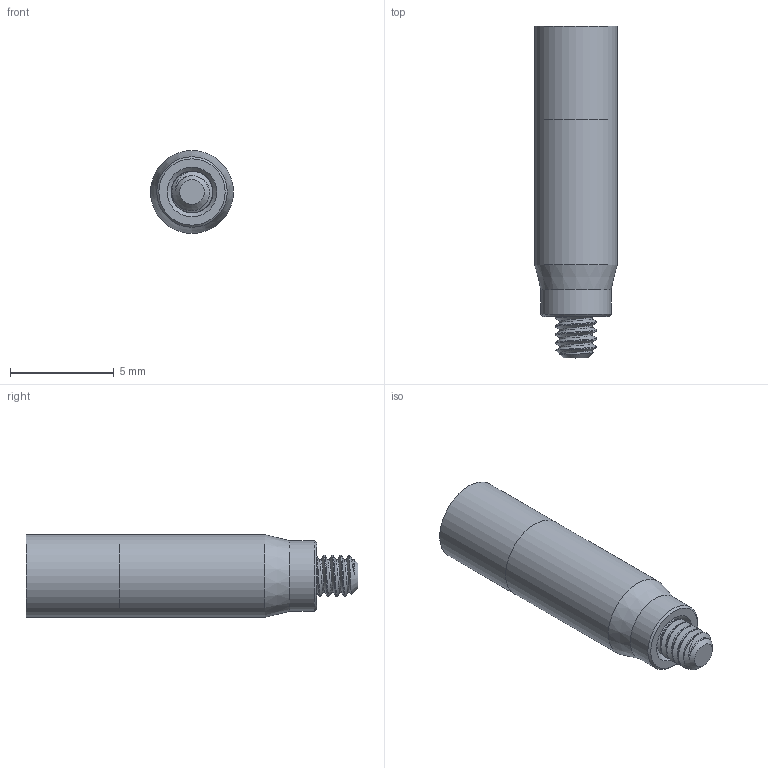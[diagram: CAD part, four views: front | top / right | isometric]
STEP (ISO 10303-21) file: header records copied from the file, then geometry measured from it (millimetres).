
FILE_DESCRIPTION (( 'STEP AP214' ), '1' );
FILE_NAME ('DAPF-4.STEP', '2018-10-09T18:08:47', ( '' ), ( '' ), 'SwSTEP 2.0', 'SolidWorks 2017', '' );
FILE_SCHEMA (( 'AUTOMOTIVE_DESIGN' ));
Length unit declared in the file: millimetre
Products named in the file (3): Schraube-M2; DAPF-4; DAP-4
Assembly tree (2 placements, depth 2):
  DAPF-4
    DAP-4
    Schraube-M2
Bounding box: 4 x 16.01 x 4 mm (x, y, z)
Volume: 159 mm3; surface area: 330.5 mm2
Topology: 3 solids, 3 shells, 107 faces, 272 edges, 180 vertices
Faces by surface type: plane 53, cylinder 42, cone 6, bspline 6
Full cylindrical faces by diameter (mm): 1.6 x7, 2.5 x1, 3.4 x1, 4 x2
Entity records: 6775 total; most frequent: CARTESIAN_POINT 4413, ORIENTED_EDGE 470, DIRECTION 356, EDGE_CURVE 235, VERTEX_POINT 161, LINE 128, VECTOR 128, EDGE_LOOP 120
